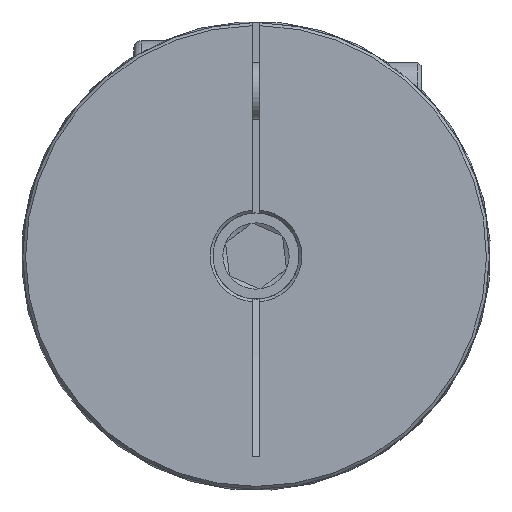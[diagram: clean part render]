
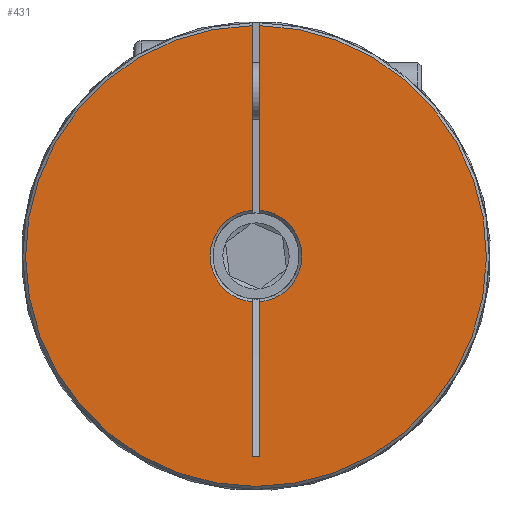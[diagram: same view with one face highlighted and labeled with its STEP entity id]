
A CAD part, left-side view. The second image highlights one B-rep face of the part: STEP entity #431.
In plain terms, the highlighted planar face has unit normal (-1, 0, 0).
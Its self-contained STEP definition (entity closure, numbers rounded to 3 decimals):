
#431 = ADVANCED_FACE( 'NONE', ( #911 ), #912, .F. );
#911 = FACE_OUTER_BOUND( '', #1441, .T. );
#912 = PLANE( '', #1442 );
#1441 = EDGE_LOOP( '', ( #2211, #2212, #2213, #2214, #2215, #2216, #2217, #2218 ) );
#1442 = AXIS2_PLACEMENT_3D( '', #2219, #2220, #2221 );
#2211 = ORIENTED_EDGE( '', *, *, #2701, .T. );
#2212 = ORIENTED_EDGE( '', *, *, #2557, .T. );
#2213 = ORIENTED_EDGE( '', *, *, #2725, .T. );
#2214 = ORIENTED_EDGE( '', *, *, #2802, .T. );
#2215 = ORIENTED_EDGE( '', *, *, #2803, .F. );
#2216 = ORIENTED_EDGE( '', *, *, #2732, .T. );
#2217 = ORIENTED_EDGE( '', *, *, #2711, .F. );
#2218 = ORIENTED_EDGE( '', *, *, #2804, .T. );
#2219 = CARTESIAN_POINT( '', ( 0., 16.25, 0. ) );
#2220 = DIRECTION( '', ( 1., 0., 0. ) );
#2221 = DIRECTION( '', ( 0., 1., 0. ) );
#2557 = EDGE_CURVE( 'NONE', #2891, #2888, #2892, .T. );
#2701 = EDGE_CURVE( 'NONE', #3115, #2891, #3116, .T. );
#2711 = EDGE_CURVE( 'NONE', #3128, #3129, #3130, .F. );
#2725 = EDGE_CURVE( 'NONE', #2888, #3150, #3151, .T. );
#2732 = EDGE_CURVE( 'NONE', #3162, #3129, #3163, .T. );
#2802 = EDGE_CURVE( 'NONE', #3150, #3255, #3256, .F. );
#2803 = EDGE_CURVE( 'NONE', #3162, #3255, #3257, .F. );
#2804 = EDGE_CURVE( 'NONE', #3128, #3115, #3258, .T. );
#2888 = VERTEX_POINT( 'NONE', #3359 );
#2891 = VERTEX_POINT( 'NONE', #3365 );
#2892 = CIRCLE( '', #3366, 3.2 );
#3115 = VERTEX_POINT( 'NONE', #3628 );
#3116 = LINE( '', #3629, #3630 );
#3128 = VERTEX_POINT( 'NONE', #3649 );
#3129 = VERTEX_POINT( 'NONE', #3650 );
#3130 = LINE( '', #3651, #3652 );
#3150 = VERTEX_POINT( 'NONE', #3729 );
#3151 = LINE( '', #3730, #3731 );
#3162 = VERTEX_POINT( 'NONE', #3748 );
#3163 = CIRCLE( '', #3749, 3.2 );
#3255 = VERTEX_POINT( 'NONE', #3960 );
#3256 = CIRCLE( '', #3961, 16.05 );
#3257 = LINE( '', #3962, #3963 );
#3258 = LINE( '', #3964, #3965 );
#3359 = CARTESIAN_POINT( '', ( 0., 0.25, 3.19 ) );
#3365 = CARTESIAN_POINT( '', ( 0., 0.25, -3.19 ) );
#3366 = AXIS2_PLACEMENT_3D( '', #4092, #4093, #4094 );
#3628 = CARTESIAN_POINT( '', ( 0., 0.25, -13.976 ) );
#3629 = CARTESIAN_POINT( '', ( 0., 0.25, 0. ) );
#3630 = VECTOR( '', #4334, 1000. );
#3649 = CARTESIAN_POINT( '', ( 0., -0.25, -13.976 ) );
#3650 = CARTESIAN_POINT( '', ( 0., -0.25, -3.19 ) );
#3651 = CARTESIAN_POINT( '', ( 0., -0.25, 7. ) );
#3652 = VECTOR( '', #4346, 1000. );
#3729 = CARTESIAN_POINT( '', ( 0., 0.25, 16.048 ) );
#3730 = CARTESIAN_POINT( '', ( 0., 0.25, 0. ) );
#3731 = VECTOR( '', #4363, 1000. );
#3748 = CARTESIAN_POINT( '', ( 0., -0.25, 3.19 ) );
#3749 = AXIS2_PLACEMENT_3D( '', #4370, #4371, #4372 );
#3960 = CARTESIAN_POINT( '', ( 0., -0.25, 16.048 ) );
#3961 = AXIS2_PLACEMENT_3D( '', #4437, #4438, #4439 );
#3962 = CARTESIAN_POINT( '', ( 0., -0.25, 7. ) );
#3963 = VECTOR( '', #4440, 1000. );
#3964 = CARTESIAN_POINT( '', ( 0., -0.25, -13.976 ) );
#3965 = VECTOR( '', #4441, 1000. );
#4092 = CARTESIAN_POINT( '', ( 0., 0., 0. ) );
#4093 = DIRECTION( '', ( 1., 0., 0. ) );
#4094 = DIRECTION( '', ( 0., 0., -1. ) );
#4334 = DIRECTION( '', ( 0., 0., 1. ) );
#4346 = DIRECTION( '', ( 0., 0., -1. ) );
#4363 = DIRECTION( '', ( 0., 0., 1. ) );
#4370 = CARTESIAN_POINT( '', ( 0., 0., 0. ) );
#4371 = DIRECTION( '', ( 1., 0., 0. ) );
#4372 = DIRECTION( '', ( 0., 0., -1. ) );
#4437 = CARTESIAN_POINT( '', ( 0., 0., 0. ) );
#4438 = DIRECTION( '', ( 1., 0., 0. ) );
#4439 = DIRECTION( '', ( 0., 0., -1. ) );
#4440 = DIRECTION( '', ( 0., 0., -1. ) );
#4441 = DIRECTION( '', ( 0., 1., 0. ) );
